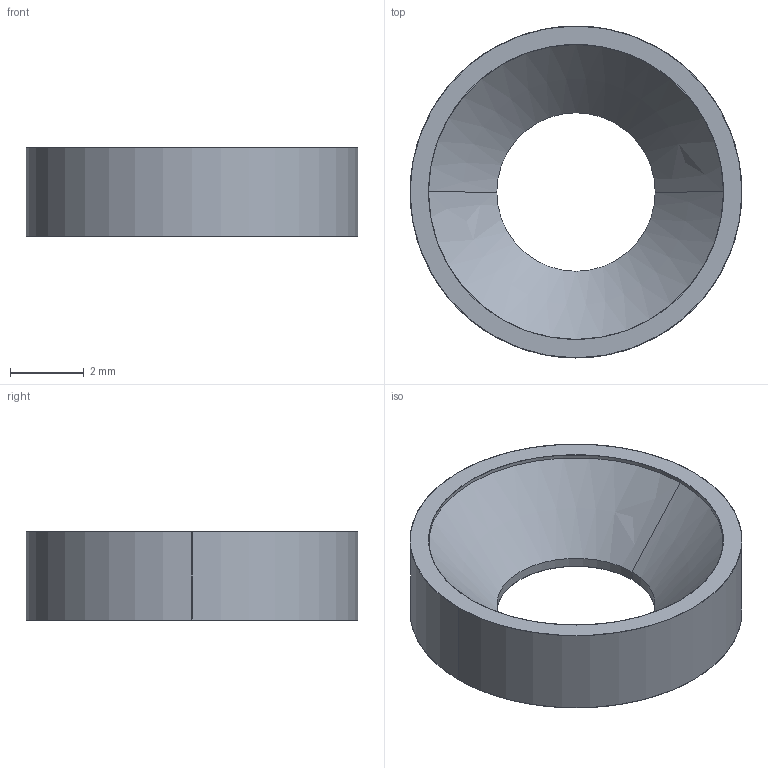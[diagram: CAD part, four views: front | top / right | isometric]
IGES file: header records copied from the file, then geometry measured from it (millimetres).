
Start section: SolidWorks IGES file using analytic representation for surfaces
Bounding box: 9 x 9 x 2.4 mm (x, y, z)
Surface area: 189.5 mm2 (no closed solid volume)
Topology: 0 solids, 0 shells, 10 faces, 160 edges, 160 vertices
Faces by surface type: revolution 8, bspline 2
